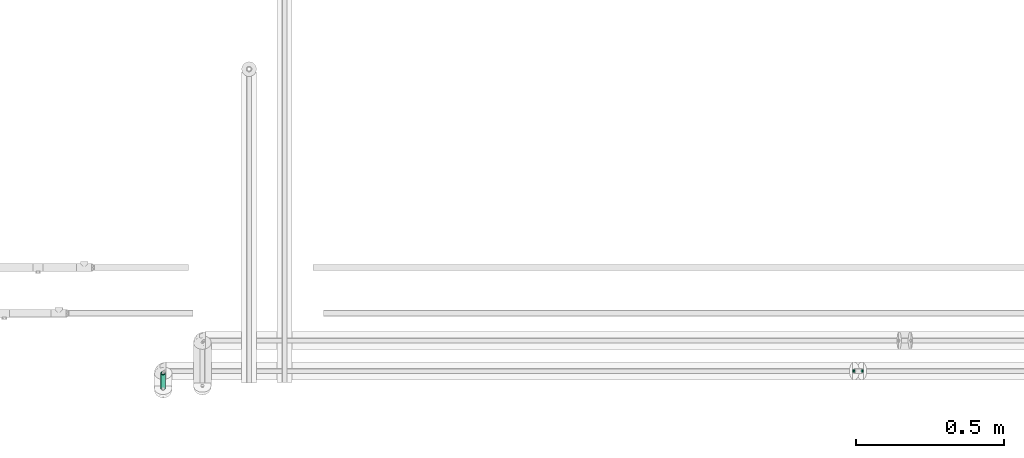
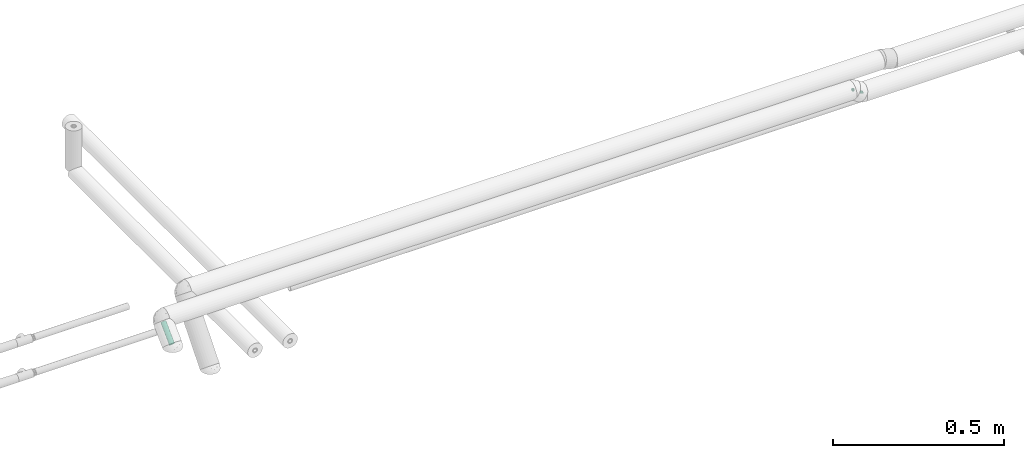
# One storey, part 80 of 156: 2 flow fittings, 1 flow segment.
"""IFC2X3 building model written with IfcOpenShell, lengths in millimetres."""

from ifc_helpers import new_model, entity, si_unit, converted_unit, derived_unit, direction, frame, origin_with_axes, origin_2d_with_axis, place, context, subcontext, project, spatial, hollow_circle, extrude, open_shell, surface_model, source, transform, mapped, type_object, element, save


model = new_model("IFC2X3")

# Units and contexts
model_context = context("Model", 3, precision=0.01, world=frame((0.0, 4.29681676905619e-09, 0.0)), true_north=direction((4.01073788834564e-13, 1.0)))
plan_context = context("Plan", 3, precision=0.01, world=frame((0.0, 4.29681676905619e-09, 0.0)), true_north=direction((4.01073788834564e-13, 1.0)))
body_context = subcontext(model_context, "Body", "Model", "MODEL_VIEW")
ifc_project = project(units=[converted_unit("PLANEANGLEUNIT", "DEGREE", entity("IfcPositiveLengthMeasure", 0.0174532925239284), si_unit("PLANEANGLEUNIT", "RADIAN"), dimensions=[0, 0, 0, 0, 0, 0, 0]), si_unit("AREAUNIT", "SQUARE_METRE"), si_unit("LENGTHUNIT", "METRE", prefix="MILLI"), si_unit("MASSUNIT", "GRAM", prefix="KILO"), si_unit("POWERUNIT", "WATT"), si_unit("PRESSUREUNIT", "PASCAL", prefix="KILO"), si_unit("FORCEUNIT", "NEWTON", prefix="KILO"), si_unit("ELECTRICVOLTAGEUNIT", "VOLT"), si_unit("ELECTRICCURRENTUNIT", "AMPERE"), si_unit("THERMODYNAMICTEMPERATUREUNIT", "DEGREE_CELSIUS"), si_unit("TIMEUNIT", "SECOND"), si_unit("VOLUMEUNIT", "CUBIC_METRE"), derived_unit("LINEARVELOCITYUNIT", [(si_unit("LENGTHUNIT", "METRE"), 1), (si_unit("TIMEUNIT", "SECOND"), -1)]), derived_unit("VOLUMETRICFLOWRATEUNIT", [(si_unit("VOLUMEUNIT", "CUBIC_METRE"), 1), (si_unit("TIMEUNIT", "SECOND"), -1)]), derived_unit("THERMALTRANSMITTANCEUNIT", [(si_unit("POWERUNIT", "WATT"), 1), (si_unit("THERMODYNAMICTEMPERATUREUNIT", "KELVIN"), -1), (si_unit("AREAUNIT", "SQUARE_METRE"), -1)]), derived_unit("SOUNDPRESSUREUNIT", [(si_unit("PRESSUREUNIT", "PASCAL"), 1)])], contexts=[model_context, plan_context])

# Site, building, storey
site_placement = place(None, frame((0.0, -4.29681676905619e-09, 0.0), z_axis=(0.0, 0.0, 1.0), x_axis=(1.0, 0.0, 0.0)))
site = spatial("IfcSite", under=ifc_project, at=site_placement, CompositionType="ELEMENT")
building_placement = place(site_placement, frame((0.0, 4.29681676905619e-09, 0.0), z_axis=(0.0, 0.0, 1.0), x_axis=(1.0, 0.0, 0.0)))
building = spatial("IfcBuilding", under=site, at=building_placement, Name="mc-building", CompositionType="ELEMENT")
storey_placement = place(building_placement, frame((0.0, 0.0, 205200.0), z_axis=(0.0, 0.0, 1.0), x_axis=(1.0, 0.0, 0.0)))
storey = spatial("IfcBuildingStorey", under=building, at=storey_placement, Name="Nivå D + 1,2 m", CompositionType="ELEMENT", Elevation=205200.0)

# Flow fittings
pipe_fitting_type = type_object("IfcPipeFittingType", Name="magi_pipe_elbow_short_001", PredefinedType="BEND")
shared_shape_1 = source(origin_with_axes(), body_context, "Body", "SurfaceModel", [
    surface_model("IfcShellBasedSurfaceModel", [(-3.02776, 0.0, -5.0), (-3.02776, -3.53553, -3.53553), (-3.02776, 1.2941, -4.82963), (-3.02776, 2.5, -4.33013), (-3.02776, 3.53553, -3.53553), (-3.02776, 4.82963, -1.2941), (-3.02776, 4.33013, -2.5), (-3.02776, -5.0, 0.0), (-3.02776, 4.33013, 2.5), (-3.02776, -2.5, -4.33013), (-3.02776, -1.2941, -4.82963), (-3.02776, -4.82963, -1.2941), (-3.02776, -4.33013, -2.5), (-3.02776, 5.0, 0.0), (-3.02776, 4.82963, 1.2941), (-3.02776, 1.2941, 4.82963), (-3.02776, 2.5, 4.33013), (-3.02776, 3.53553, 3.53553), (-3.02776, -3.53553, 3.53553), (-3.02776, -4.82963, 1.2941), (-3.02776, -4.33013, 2.5), (-3.02776, -2.5, 4.33013), (-3.02776, -1.2941, 4.82963), (-3.02776, 0.0, 5.0), (1.80141, 2.75625, -4.82963), (4.92117, -1.92339, -2.5), (2.51925, 1.6795, -5.0), (0.55808, 4.62124, -3.53553), (1.1325, 3.75962, -4.33013), (0.11732, 5.28238, -2.5), (-0.15975, 5.69799, -1.2941), (0.11732, 5.28238, 2.5), (3.23708, 0.60274, -4.82963), (4.48041, -1.26224, -3.53553), (3.906, -0.40063, -4.33013), (5.29275, -2.48075, 0.0), (5.19824, -2.339, -1.2941), (4.48041, -1.26224, 3.53553), (-0.25426, 5.83975, 0.0), (-0.15975, 5.69799, 1.2941), (1.1325, 3.75962, 4.33013), (1.80141, 2.75625, 4.82963), (0.55808, 4.62124, 3.53553), (4.92117, -1.92339, 2.5), (5.19824, -2.339, 1.2941), (3.23708, 0.60274, 4.82963), (3.906, -0.40063, 4.33013), (2.51925, 1.6795, 5.0), (1.31901, -4.35638, 0.0), (-1.18293, -4.72684, 0.0), (-1.57884, 5.21454, 0.0), (3.60624, -3.27679, 0.0)], [open_shell([[[0, 1, 2]], [[3, 2, 4]], [[5, 6, 4]], [[4, 2, 7]], [[4, 7, 8]], [[9, 1, 10]], [[1, 0, 10]], [[11, 7, 12]], [[1, 12, 7]], [[1, 7, 2]], [[13, 5, 4]], [[8, 14, 13]], [[7, 15, 8]], [[8, 15, 16]], [[17, 8, 16]], [[18, 15, 7]], [[19, 20, 7]], [[7, 20, 18]], [[21, 22, 18]], [[22, 15, 18]], [[15, 22, 23]], [[8, 13, 4]], [[24, 25, 26]], [[27, 24, 28]], [[27, 29, 30]], [[25, 24, 27]], [[27, 31, 25]], [[32, 33, 34]], [[33, 32, 25]], [[25, 35, 36]], [[25, 32, 26]], [[25, 37, 35]], [[27, 30, 38]], [[38, 39, 31]], [[25, 31, 37]], [[40, 41, 31]], [[40, 31, 42]], [[37, 31, 41]], [[43, 44, 35]], [[37, 43, 35]], [[37, 45, 46]], [[37, 41, 45]], [[47, 45, 41]], [[38, 31, 27]], [[21, 18, 48]], [[20, 49, 18]], [[45, 22, 21]], [[41, 15, 23]], [[23, 22, 47]], [[19, 49, 20]], [[42, 17, 16]], [[31, 8, 17]], [[14, 8, 50]], [[50, 13, 14]], [[50, 8, 31]], [[41, 16, 15]], [[19, 7, 49]], [[48, 18, 49]], [[46, 45, 21]], [[46, 48, 37]], [[45, 47, 22]], [[51, 43, 37]], [[48, 51, 37]], [[44, 51, 35]], [[31, 39, 50]], [[38, 50, 39]], [[43, 51, 44]], [[41, 23, 47]], [[17, 42, 31]], [[42, 16, 40]], [[40, 16, 41]], [[21, 48, 46]], [[12, 49, 11]], [[24, 0, 2]], [[26, 10, 0]], [[29, 4, 6]], [[4, 27, 3]], [[5, 50, 6]], [[24, 2, 3]], [[49, 7, 11]], [[12, 1, 49]], [[48, 9, 34]], [[48, 49, 1]], [[48, 1, 9]], [[32, 9, 10]], [[5, 13, 50]], [[50, 38, 30]], [[50, 30, 29]], [[28, 3, 27]], [[3, 28, 24]], [[29, 27, 4]], [[24, 26, 0]], [[32, 34, 9]], [[36, 35, 51]], [[34, 33, 48]], [[25, 36, 51]], [[48, 33, 51]], [[51, 33, 25]], [[26, 32, 10]], [[29, 6, 50]]])]),
])
for number, where, z_axis, x_axis, name in (
    (1, (325575.0, 458928.61963, 4236.68835000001), (0.0, 1.0, 0.0), (1.0, 0.0, 0.0), "magi_pipe_elbow_short_001"),
    (2, (325605.0, 458928.61963, 4216.68835000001), (0.0, 1.0, 0.0), (-1.0, 0.0, 0.0), "magi_pipe_elbow_short_001"),
):
    element("IfcFlowFitting", number, at=place(storey_placement, frame(where, z_axis=z_axis, x_axis=x_axis)), inside=storey, type_object=pipe_fitting_type, Name=name, context=body_context, shape_type="MappedRepresentation", body=[
        mapped(shared_shape_1, transform((0.0, 0.0, 0.0), scale=1.0)),
    ])

# Flow segment
pipe_segment_type = type_object("IfcPipeSegmentType", Name="Stålrør normaltykke", PredefinedType="RIGIDSEGMENT")
shared_shape_2 = source(origin_with_axes(), body_context, "Body", "SweptSolid", [
    extrude(hollow_circle(Radius=8.6, WallThickness=2.0, at=origin_2d_with_axis()), frame((0.0, 0.0, 0.0), z_axis=(1.0, 0.0, 0.0), x_axis=(0.0, 1.0, 0.0)), (0.0, 0.0, 1.0), 72.0),
])
flow_segment_placement = place(storey_placement, frame((323245.0, 458870.66022, 4178.72893000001), z_axis=(0.0, -0.707106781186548, 0.707106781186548), x_axis=(0.0, 0.707106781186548, 0.707106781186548)))
element("IfcFlowSegment", 3, at=flow_segment_placement, inside=storey, type_object=pipe_segment_type, Name="Stålrør normaltykke", context=body_context, shape_type="MappedRepresentation", body=[
    mapped(shared_shape_2, transform((0.0, 0.0, 0.0), scale=1.0)),
])

save(model, "model.ifc")
